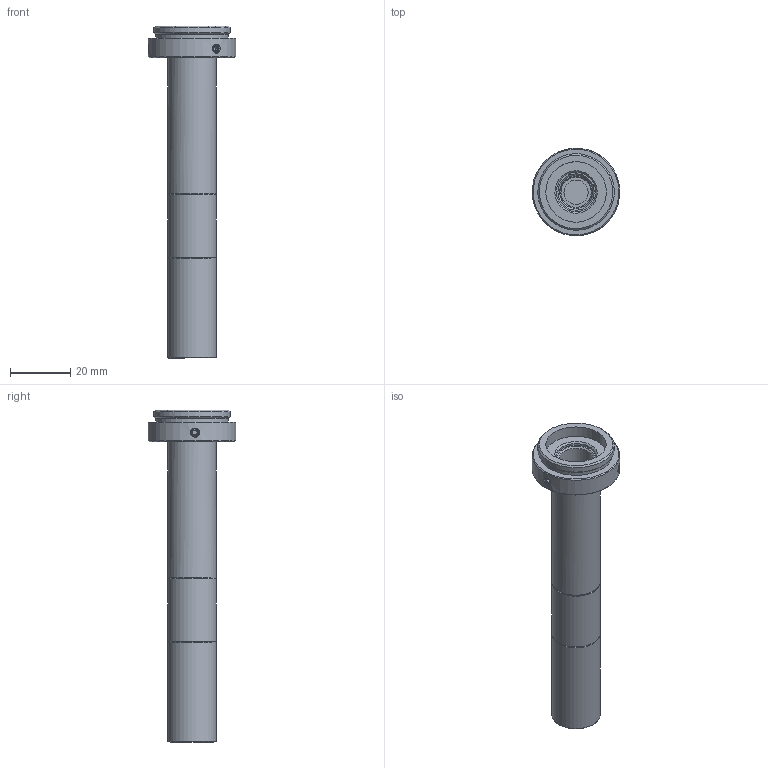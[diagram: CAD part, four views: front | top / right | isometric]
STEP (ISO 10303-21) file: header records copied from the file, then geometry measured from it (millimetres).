
FILE_DESCRIPTION(('STEP AP214'),'1');
FILE_NAME('RTK-3-110.stp','2026-03-17T05:58:51',(' '),(' '),'Spatial InterOp 3D',' ',' ');
FILE_SCHEMA(('AUTOMOTIVE_DESIGN { 1 0 10303 214 1 1 1 1 }'));
Length unit declared in the file: metre
Products named in the file (2): RTK-3-110; Component1
Assembly tree (1 placements, depth 2):
  RTK-3-110
    Component1
Bounding box: 28.97 x 28.93 x 109.93 mm (x, y, z)
Volume: 14056.9 mm3; surface area: 12821 mm2
Topology: 1 solids, 8 shells, 177 faces, 402 edges, 266 vertices
Faces by surface type: cone 65, plane 62, cylinder 42, sphere 5, bspline 3
Full cylindrical faces by diameter (mm): 2.5 x6, 8 x1, 10 x2, 11 x1, 12 x4, 12.7 x1, 13 x2, 13.4 x2, 13.5 x5, 13.7 x1, 13.9 x1, 14 x2, 14.2 x2, 14.7 x1, 16 x5, 20 x1, 24.12 x1, 25.32 x1, 29 x1
Entity records: 6128 total; most frequent: CARTESIAN_POINT 1237, DIRECTION 724, ORIENTED_EDGE 550, AXIS2_PLACEMENT_3D 318, EDGE_LOOP 300, EDGE_CURVE 275, VERTEX_POINT 230, FACE_OUTER_BOUND 219
